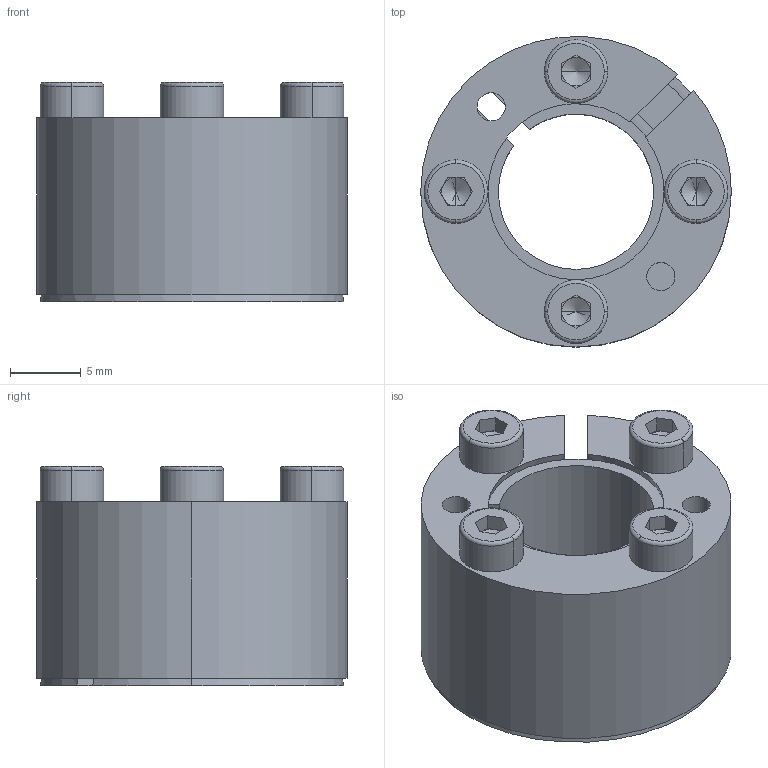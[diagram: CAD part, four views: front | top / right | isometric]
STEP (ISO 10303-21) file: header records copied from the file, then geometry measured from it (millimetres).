
FILE_DESCRIPTION (( 'STEP AP214' ), '1' );
FILE_NAME ('CONEX-K-11x22.step', '2013-04-06T13:20:24', ( 'Pc' ), ( '' ), 'SwSTEP 2.0', 'SolidWorks 2013', '' );
FILE_SCHEMA (( 'AUTOMOTIVE_DESIGN' ));
Length unit declared in the file: millimetre
Products named in the file (1): CONEX-K-11x22
Bounding box: 22 x 21.98 x 15.51 mm (x, y, z)
Volume: 2952.4 mm3; surface area: 4434.1 mm2
Topology: 6 solids, 6 shells, 162 faces, 378 edges, 228 vertices
Faces by surface type: plane 70, cylinder 48, cone 28, torus 16
Entity records: 6473 total; most frequent: DIRECTION 866, CARTESIAN_POINT 785, ORIENTED_EDGE 740, EDGE_CURVE 370, AXIS2_PLACEMENT_3D 341, VERTEX_POINT 228, EDGE_LOOP 190, LINE 184
